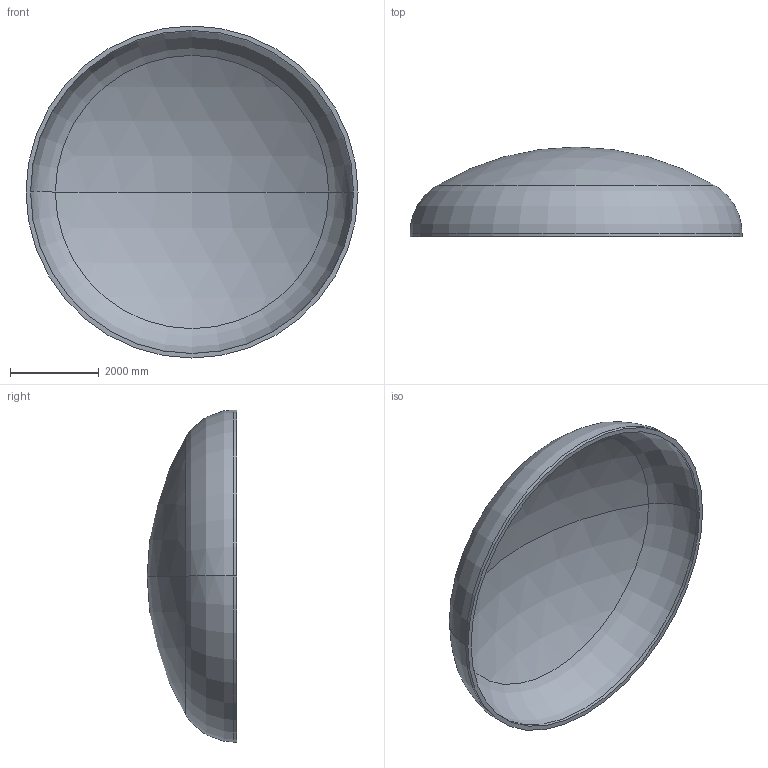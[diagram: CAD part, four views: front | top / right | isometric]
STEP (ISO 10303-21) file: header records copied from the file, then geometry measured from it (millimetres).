
FILE_DESCRIPTION (( 'STEP AP203' ), '1' );
FILE_NAME ('DIN 28013 Korbbogenform_-_Boden DIN 28013 - 7500 x 75 - I - s=102.step', '2016-07-04T10:57:04', ( '' ), ( '' ), 'SwSTEP 2.0', 'SolidWorks 2013', '' );
FILE_SCHEMA (( 'CONFIG_CONTROL_DESIGN' ));
Length unit declared in the file: millimetre
Products named in the file (1): DIN 28013 Korbbogenform_-_Boden DIN 28013 - 7500 x 75 - I - s=102
Bounding box: 7500 x 2022.61 x 7500 mm (x, y, z)
Volume: 6307689428.9 mm3; surface area: 126072560.5 mm2
Topology: 1 solids, 1 shells, 13 faces, 24 edges, 14 vertices
Faces by surface type: torus 4, cylinder 4, sphere 4, plane 1
Entity records: 407 total; most frequent: DIRECTION 72, CARTESIAN_POINT 52, ORIENTED_EDGE 48, AXIS2_PLACEMENT_3D 34, EDGE_CURVE 24, CIRCLE 20, VERTEX_POINT 14, EDGE_LOOP 14
